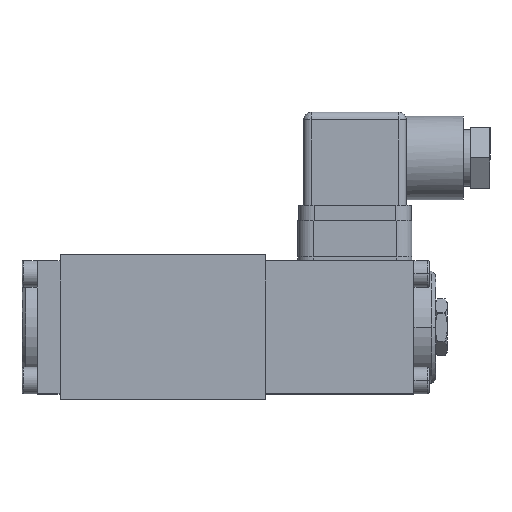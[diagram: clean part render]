
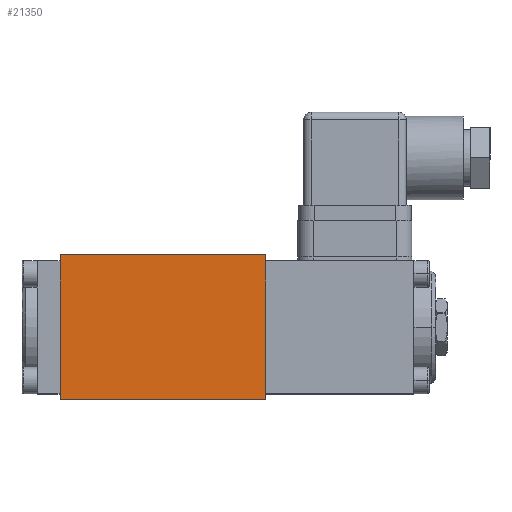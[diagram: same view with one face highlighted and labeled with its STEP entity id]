
A CAD part, top view. The second image highlights one B-rep face of the part: STEP entity #21350.
In plain terms, the highlighted planar face has unit normal (0, 0, 1).
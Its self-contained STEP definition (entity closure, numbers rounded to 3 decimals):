
#63 = ORIENTED_EDGE ( 'NONE', *, *, #15989, .T. ) ;
#1342 = CARTESIAN_POINT ( 'NONE',  ( 54., 19., 19. ) ) ;
#3532 = VECTOR ( 'NONE', #28391, 1000. ) ;
#3562 = CARTESIAN_POINT ( 'NONE',  ( 0., 19., 19. ) ) ;
#3585 = DIRECTION ( 'NONE',  ( 0., -1., 0. ) ) ;
#3687 = LINE ( 'NONE', #28425, #3532 ) ;
#4123 = CARTESIAN_POINT ( 'NONE',  ( 0., -19., 19. ) ) ;
#5467 = EDGE_LOOP ( 'NONE', ( #10845, #11191, #11882, #63 ) ) ;
#5821 = CARTESIAN_POINT ( 'NONE',  ( 0., 19., 19. ) ) ;
#6829 = CARTESIAN_POINT ( 'NONE',  ( 0., -19., 19. ) ) ;
#7169 = EDGE_CURVE ( 'NONE', #18727, #28710, #14150, .T. ) ;
#7644 = AXIS2_PLACEMENT_3D ( 'NONE', #22264, #22196, #22181 ) ;
#7724 = CARTESIAN_POINT ( 'NONE',  ( 0., 19., 19. ) ) ;
#7996 = VECTOR ( 'NONE', #3585, 1000. ) ;
#7997 = DIRECTION ( 'NONE',  ( 1., 0., 0. ) ) ;
#10742 = LINE ( 'NONE', #3562, #7996 ) ;
#10845 = ORIENTED_EDGE ( 'NONE', *, *, #17313, .F. ) ;
#10865 = VERTEX_POINT ( 'NONE', #6829 ) ;
#11191 = ORIENTED_EDGE ( 'NONE', *, *, #7169, .F. ) ;
#11882 = ORIENTED_EDGE ( 'NONE', *, *, #18865, .T. ) ;
#13072 = FACE_OUTER_BOUND ( 'NONE', #5467, .T. ) ;
#13749 = VECTOR ( 'NONE', #7997, 1000. ) ;
#14150 = LINE ( 'NONE', #7724, #13749 ) ;
#15989 = EDGE_CURVE ( 'NONE', #10865, #24585, #25848, .T. ) ;
#17313 = EDGE_CURVE ( 'NONE', #28710, #24585, #3687, .T. ) ;
#18727 = VERTEX_POINT ( 'NONE', #5821 ) ;
#18865 = EDGE_CURVE ( 'NONE', #18727, #10865, #10742, .T. ) ;
#21350 = ADVANCED_FACE ( 'NONE', ( #13072 ), #23145, .T. ) ;
#22181 = DIRECTION ( 'NONE',  ( 0., -1., 0. ) ) ;
#22196 = DIRECTION ( 'NONE',  ( 0., 0., 1. ) ) ;
#22264 = CARTESIAN_POINT ( 'NONE',  ( 0., 19., 19. ) ) ;
#22903 = DIRECTION ( 'NONE',  ( 1., 0., 0. ) ) ;
#23145 = PLANE ( 'NONE',  #7644 ) ;
#24585 = VERTEX_POINT ( 'NONE', #25257 ) ;
#25257 = CARTESIAN_POINT ( 'NONE',  ( 54., -19., 19. ) ) ;
#25746 = VECTOR ( 'NONE', #22903, 1000. ) ;
#25848 = LINE ( 'NONE', #4123, #25746 ) ;
#28391 = DIRECTION ( 'NONE',  ( 0., -1., 0. ) ) ;
#28425 = CARTESIAN_POINT ( 'NONE',  ( 54., 19., 19. ) ) ;
#28710 = VERTEX_POINT ( 'NONE', #1342 ) ;
